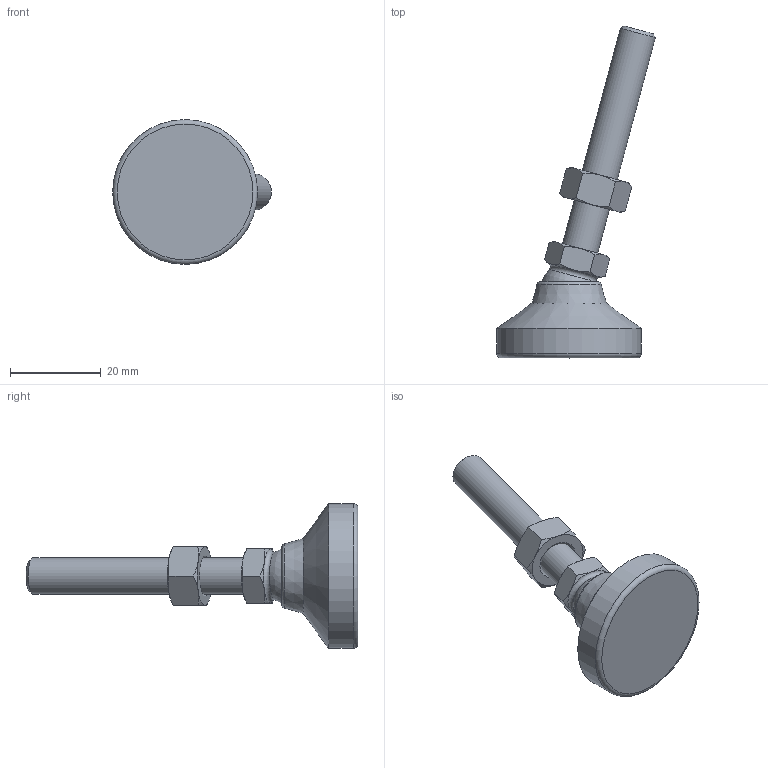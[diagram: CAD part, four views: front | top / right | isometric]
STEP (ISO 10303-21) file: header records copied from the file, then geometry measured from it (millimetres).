
FILE_DESCRIPTION( ( 'STEP AP214' ), ' ' );
FILE_NAME( 'O:/ganter_2015/teil_2/2_5/gn343_2/gn343_2_ks/Levelling foot with threaded stud GN 343.2-32-M8-50-KS-(-15).stp', '2015-10-26T09:09:37', ( '' ), ( '' ), ' ', 'PARTsolutions', ' ' );
FILE_SCHEMA( ( 'AUTOMOTIVE_DESIGN { 1 0 10303 214 1 1 1 1 }' ) );
Length unit declared in the file: millimetre
Products named in the file (4): Levelling foot with threaded stud GN 343.2-32-M8-50-KS-(-15); _Levelling foot with threaded stud GN 343.2-32-M8-50-KS-(-15)_foot; _Gelenkfuss mit Schraube GN 343.2-32-M8-50-KS-(-15)_screw; _GLevelling foot with threaded stud GN 343.2-32-M8-50-KS-(-15)_nut
Assembly tree (3 placements, depth 2):
  Levelling foot with threaded stud GN 343.2-32-M8-50-KS-(-15)
    _Levelling foot with threaded stud GN 343.2-32-M8-50-KS-(-15)_foot
    _Gelenkfuss mit Schraube GN 343.2-32-M8-50-KS-(-15)_screw
    _GLevelling foot with threaded stud GN 343.2-32-M8-50-KS-(-15)_nut
Bounding box: 35.06 x 73.33 x 32 mm (x, y, z)
Volume: 12859.3 mm3; surface area: 5363.8 mm2
Topology: 3 solids, 3 shells, 50 faces, 107 edges, 63 vertices
Faces by surface type: cone 24, plane 18, torus 3, cylinder 3, sphere 2
Full cylindrical faces by diameter (mm): 6.647 x1, 8 x1, 32 x1
Entity records: 1858 total; most frequent: CARTESIAN_POINT 452, DIRECTION 188, ORIENTED_EDGE 176, AXIS2_PLACEMENT_3D 88, EDGE_CURVE 88, EDGE_LOOP 66, VERTEX_POINT 60, FACE_OUTER_BOUND 56
